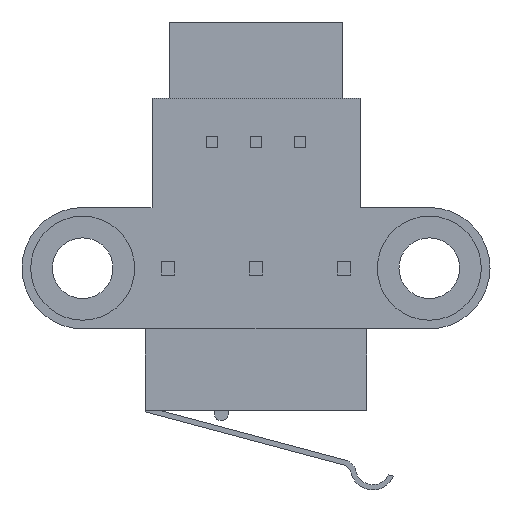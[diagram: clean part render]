
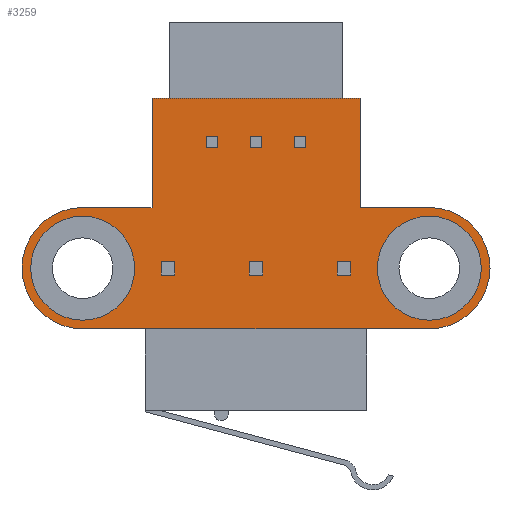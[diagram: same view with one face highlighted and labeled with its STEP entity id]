
A CAD part, front view. The second image highlights one B-rep face of the part: STEP entity #3259.
In plain terms, the highlighted planar face has unit normal (0, -1, 0).
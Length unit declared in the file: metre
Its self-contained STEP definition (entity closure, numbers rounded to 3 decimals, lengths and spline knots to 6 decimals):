
#25=LINE('',#5056,#420);
#29=LINE('',#5065,#424);
#32=LINE('',#5071,#427);
#35=LINE('',#5077,#430);
#61=LINE('',#5130,#456);
#65=LINE('',#5139,#460);
#68=LINE('',#5145,#463);
#71=LINE('',#5151,#466);
#97=LINE('',#5204,#492);
#101=LINE('',#5213,#496);
#104=LINE('',#5219,#499);
#107=LINE('',#5225,#502);
#133=LINE('',#5278,#528);
#137=LINE('',#5287,#532);
#140=LINE('',#5293,#535);
#143=LINE('',#5299,#538);
#169=LINE('',#5352,#564);
#173=LINE('',#5361,#568);
#176=LINE('',#5367,#571);
#179=LINE('',#5373,#574);
#205=LINE('',#5426,#600);
#209=LINE('',#5435,#604);
#212=LINE('',#5441,#607);
#215=LINE('',#5447,#610);
#331=LINE('',#5702,#726);
#338=LINE('',#5721,#733);
#341=LINE('',#5727,#736);
#344=LINE('',#5733,#739);
#348=LINE('',#5740,#743);
#351=LINE('',#5746,#746);
#420=VECTOR('',#4266,1.);
#424=VECTOR('',#4272,1.);
#427=VECTOR('',#4277,1.);
#430=VECTOR('',#4282,1.);
#456=VECTOR('',#4330,1.);
#460=VECTOR('',#4336,1.);
#463=VECTOR('',#4341,1.);
#466=VECTOR('',#4346,1.);
#492=VECTOR('',#4394,1.);
#496=VECTOR('',#4400,1.);
#499=VECTOR('',#4405,1.);
#502=VECTOR('',#4410,1.);
#528=VECTOR('',#4458,1.);
#532=VECTOR('',#4464,1.);
#535=VECTOR('',#4469,1.);
#538=VECTOR('',#4474,1.);
#564=VECTOR('',#4522,1.);
#568=VECTOR('',#4528,1.);
#571=VECTOR('',#4533,1.);
#574=VECTOR('',#4538,1.);
#600=VECTOR('',#4586,1.);
#604=VECTOR('',#4592,1.);
#607=VECTOR('',#4597,1.);
#610=VECTOR('',#4602,1.);
#726=VECTOR('',#4816,1.);
#733=VECTOR('',#4831,1.);
#736=VECTOR('',#4836,1.);
#739=VECTOR('',#4841,1.);
#743=VECTOR('',#4847,1.);
#746=VECTOR('',#4852,1.);
#928=PLANE('',#4156);
#1563=ORIENTED_EDGE('',*,*,#1819,.F.);
#1564=ORIENTED_EDGE('',*,*,#1821,.F.);
#1565=ORIENTED_EDGE('',*,*,#2174,.F.);
#1566=ORIENTED_EDGE('',*,*,#2149,.F.);
#1567=ORIENTED_EDGE('',*,*,#2155,.F.);
#1568=ORIENTED_EDGE('',*,*,#2158,.F.);
#1569=ORIENTED_EDGE('',*,*,#2161,.F.);
#1570=ORIENTED_EDGE('',*,*,#2164,.F.);
#1571=ORIENTED_EDGE('',*,*,#2168,.F.);
#1572=ORIENTED_EDGE('',*,*,#2171,.F.);
#1573=ORIENTED_EDGE('',*,*,#2019,.T.);
#1574=ORIENTED_EDGE('',*,*,#2015,.T.);
#1575=ORIENTED_EDGE('',*,*,#2025,.T.);
#1576=ORIENTED_EDGE('',*,*,#2022,.T.);
#1577=ORIENTED_EDGE('',*,*,#1983,.T.);
#1578=ORIENTED_EDGE('',*,*,#1979,.T.);
#1579=ORIENTED_EDGE('',*,*,#1989,.T.);
#1580=ORIENTED_EDGE('',*,*,#1986,.T.);
#1581=ORIENTED_EDGE('',*,*,#1947,.T.);
#1582=ORIENTED_EDGE('',*,*,#1943,.T.);
#1583=ORIENTED_EDGE('',*,*,#1953,.T.);
#1584=ORIENTED_EDGE('',*,*,#1950,.T.);
#1585=ORIENTED_EDGE('',*,*,#1911,.T.);
#1586=ORIENTED_EDGE('',*,*,#1907,.T.);
#1587=ORIENTED_EDGE('',*,*,#1917,.T.);
#1588=ORIENTED_EDGE('',*,*,#1914,.T.);
#1589=ORIENTED_EDGE('',*,*,#1875,.T.);
#1590=ORIENTED_EDGE('',*,*,#1871,.T.);
#1591=ORIENTED_EDGE('',*,*,#1881,.T.);
#1592=ORIENTED_EDGE('',*,*,#1878,.T.);
#1593=ORIENTED_EDGE('',*,*,#1839,.T.);
#1594=ORIENTED_EDGE('',*,*,#1835,.T.);
#1595=ORIENTED_EDGE('',*,*,#1845,.T.);
#1596=ORIENTED_EDGE('',*,*,#1842,.T.);
#1819=EDGE_CURVE('',#2248,#2248,#2538,.F.);
#1821=EDGE_CURVE('',#2250,#2250,#2540,.F.);
#1835=EDGE_CURVE('',#2260,#2261,#25,.T.);
#1839=EDGE_CURVE('',#2264,#2260,#29,.T.);
#1842=EDGE_CURVE('',#2266,#2264,#32,.T.);
#1845=EDGE_CURVE('',#2261,#2266,#35,.T.);
#1871=EDGE_CURVE('',#2284,#2285,#61,.T.);
#1875=EDGE_CURVE('',#2288,#2284,#65,.T.);
#1878=EDGE_CURVE('',#2290,#2288,#68,.T.);
#1881=EDGE_CURVE('',#2285,#2290,#71,.T.);
#1907=EDGE_CURVE('',#2308,#2309,#97,.T.);
#1911=EDGE_CURVE('',#2312,#2308,#101,.T.);
#1914=EDGE_CURVE('',#2314,#2312,#104,.T.);
#1917=EDGE_CURVE('',#2309,#2314,#107,.T.);
#1943=EDGE_CURVE('',#2332,#2333,#133,.T.);
#1947=EDGE_CURVE('',#2336,#2332,#137,.T.);
#1950=EDGE_CURVE('',#2338,#2336,#140,.T.);
#1953=EDGE_CURVE('',#2333,#2338,#143,.T.);
#1979=EDGE_CURVE('',#2356,#2357,#169,.T.);
#1983=EDGE_CURVE('',#2360,#2356,#173,.T.);
#1986=EDGE_CURVE('',#2362,#2360,#176,.T.);
#1989=EDGE_CURVE('',#2357,#2362,#179,.T.);
#2015=EDGE_CURVE('',#2380,#2381,#205,.T.);
#2019=EDGE_CURVE('',#2384,#2380,#209,.T.);
#2022=EDGE_CURVE('',#2386,#2384,#212,.T.);
#2025=EDGE_CURVE('',#2381,#2386,#215,.T.);
#2149=EDGE_CURVE('',#2478,#2479,#331,.T.);
#2155=EDGE_CURVE('',#2484,#2478,#2550,.T.);
#2158=EDGE_CURVE('',#2486,#2484,#338,.T.);
#2161=EDGE_CURVE('',#2488,#2486,#341,.T.);
#2164=EDGE_CURVE('',#2490,#2488,#344,.T.);
#2168=EDGE_CURVE('',#2492,#2490,#348,.T.);
#2171=EDGE_CURVE('',#2494,#2492,#351,.T.);
#2174=EDGE_CURVE('',#2479,#2494,#2552,.T.);
#2248=VERTEX_POINT('',#5020);
#2250=VERTEX_POINT('',#5026);
#2260=VERTEX_POINT('',#5057);
#2261=VERTEX_POINT('',#5058);
#2264=VERTEX_POINT('',#5066);
#2266=VERTEX_POINT('',#5072);
#2284=VERTEX_POINT('',#5131);
#2285=VERTEX_POINT('',#5132);
#2288=VERTEX_POINT('',#5140);
#2290=VERTEX_POINT('',#5146);
#2308=VERTEX_POINT('',#5205);
#2309=VERTEX_POINT('',#5206);
#2312=VERTEX_POINT('',#5214);
#2314=VERTEX_POINT('',#5220);
#2332=VERTEX_POINT('',#5279);
#2333=VERTEX_POINT('',#5280);
#2336=VERTEX_POINT('',#5288);
#2338=VERTEX_POINT('',#5294);
#2356=VERTEX_POINT('',#5353);
#2357=VERTEX_POINT('',#5354);
#2360=VERTEX_POINT('',#5362);
#2362=VERTEX_POINT('',#5368);
#2380=VERTEX_POINT('',#5427);
#2381=VERTEX_POINT('',#5428);
#2384=VERTEX_POINT('',#5436);
#2386=VERTEX_POINT('',#5442);
#2478=VERTEX_POINT('',#5703);
#2479=VERTEX_POINT('',#5704);
#2484=VERTEX_POINT('',#5716);
#2486=VERTEX_POINT('',#5722);
#2488=VERTEX_POINT('',#5728);
#2490=VERTEX_POINT('',#5734);
#2492=VERTEX_POINT('',#5741);
#2494=VERTEX_POINT('',#5747);
#2538=CIRCLE('',#4010,0.003);
#2540=CIRCLE('',#4014,0.003);
#2550=CIRCLE('',#4146,0.0035);
#2552=CIRCLE('',#4154,0.0035);
#2729=EDGE_LOOP('',(#1563));
#2730=EDGE_LOOP('',(#1564));
#2731=EDGE_LOOP('',(#1565,#1566,#1567,#1568,#1569,#1570,#1571,#1572));
#2732=EDGE_LOOP('',(#1573,#1574,#1575,#1576));
#2733=EDGE_LOOP('',(#1577,#1578,#1579,#1580));
#2734=EDGE_LOOP('',(#1581,#1582,#1583,#1584));
#2735=EDGE_LOOP('',(#1585,#1586,#1587,#1588));
#2736=EDGE_LOOP('',(#1589,#1590,#1591,#1592));
#2737=EDGE_LOOP('',(#1593,#1594,#1595,#1596));
#2942=FACE_BOUND('',#2729,.T.);
#2943=FACE_BOUND('',#2730,.T.);
#2944=FACE_BOUND('',#2731,.T.);
#2945=FACE_BOUND('',#2732,.T.);
#2946=FACE_BOUND('',#2733,.T.);
#2947=FACE_BOUND('',#2734,.T.);
#2948=FACE_BOUND('',#2735,.T.);
#2949=FACE_BOUND('',#2736,.T.);
#2950=FACE_BOUND('',#2737,.T.);
#3259=ADVANCED_FACE('',(#2942,#2943,#2944,#2945,#2946,#2947,#2948,#2949,
#2950),#928,.F.);
#4010=AXIS2_PLACEMENT_3D('',#5019,#4228,#4229);
#4014=AXIS2_PLACEMENT_3D('',#5025,#4236,#4237);
#4146=AXIS2_PLACEMENT_3D('',#5715,#4824,#4825);
#4154=AXIS2_PLACEMENT_3D('',#5752,#4857,#4858);
#4156=AXIS2_PLACEMENT_3D('',#5754,#4861,#4862);
#4228=DIRECTION('',(0.,1.,0.));
#4229=DIRECTION('',(0.,0.,1.));
#4236=DIRECTION('',(0.,1.,0.));
#4237=DIRECTION('',(0.,0.,1.));
#4266=DIRECTION('',(0.,0.,-1.));
#4272=DIRECTION('',(1.,0.,0.));
#4277=DIRECTION('',(0.,0.,1.));
#4282=DIRECTION('',(-1.,0.,0.));
#4330=DIRECTION('',(0.,0.,-1.));
#4336=DIRECTION('',(1.,0.,0.));
#4341=DIRECTION('',(0.,0.,1.));
#4346=DIRECTION('',(-1.,0.,0.));
#4394=DIRECTION('',(0.,0.,-1.));
#4400=DIRECTION('',(1.,0.,0.));
#4405=DIRECTION('',(0.,0.,1.));
#4410=DIRECTION('',(-1.,0.,0.));
#4458=DIRECTION('',(0.,0.,-1.));
#4464=DIRECTION('',(1.,0.,0.));
#4469=DIRECTION('',(0.,0.,1.));
#4474=DIRECTION('',(-1.,0.,0.));
#4522=DIRECTION('',(0.,0.,-1.));
#4528=DIRECTION('',(1.,0.,0.));
#4533=DIRECTION('',(0.,0.,1.));
#4538=DIRECTION('',(-1.,0.,0.));
#4586=DIRECTION('',(0.,0.,-1.));
#4592=DIRECTION('',(1.,0.,0.));
#4597=DIRECTION('',(0.,0.,1.));
#4602=DIRECTION('',(-1.,0.,0.));
#4816=DIRECTION('',(-1.,0.,0.));
#4824=DIRECTION('',(0.,1.,0.));
#4825=DIRECTION('',(0.,0.,1.));
#4831=DIRECTION('',(1.,0.,0.));
#4836=DIRECTION('',(0.,0.,-1.));
#4841=DIRECTION('',(1.,0.,0.));
#4847=DIRECTION('',(0.,0.,1.));
#4852=DIRECTION('',(1.,0.,0.));
#4857=DIRECTION('',(0.,1.,0.));
#4858=DIRECTION('',(0.,0.,1.));
#4861=DIRECTION('',(0.,1.,0.));
#4862=DIRECTION('',(0.,0.,1.));
#5019=CARTESIAN_POINT('',(-0.01,0.,0.));
#5020=CARTESIAN_POINT('',(-0.01,0.,0.003));
#5025=CARTESIAN_POINT('',(0.01,0.,0.));
#5026=CARTESIAN_POINT('',(0.01,0.,0.003));
#5056=CARTESIAN_POINT('',(0.00548,0.,0.));
#5057=CARTESIAN_POINT('',(0.00548,0.,0.0004));
#5058=CARTESIAN_POINT('',(0.00548,0.,-0.0004));
#5065=CARTESIAN_POINT('',(-0.01,0.,0.0004));
#5066=CARTESIAN_POINT('',(0.00468,0.,0.0004));
#5071=CARTESIAN_POINT('',(0.00468,0.,0.));
#5072=CARTESIAN_POINT('',(0.00468,0.,-0.0004));
#5077=CARTESIAN_POINT('',(-0.01,0.,-0.0004));
#5130=CARTESIAN_POINT('',(0.0004,0.,0.));
#5131=CARTESIAN_POINT('',(0.0004,0.,0.0004));
#5132=CARTESIAN_POINT('',(0.0004,0.,-0.0004));
#5139=CARTESIAN_POINT('',(-0.01,0.,0.0004));
#5140=CARTESIAN_POINT('',(-0.0004,0.,0.0004));
#5145=CARTESIAN_POINT('',(-0.0004,0.,0.));
#5146=CARTESIAN_POINT('',(-0.0004,0.,-0.0004));
#5151=CARTESIAN_POINT('',(-0.01,0.,-0.0004));
#5204=CARTESIAN_POINT('',(-0.00468,0.,0.));
#5205=CARTESIAN_POINT('',(-0.00468,0.,0.0004));
#5206=CARTESIAN_POINT('',(-0.00468,0.,-0.0004));
#5213=CARTESIAN_POINT('',(-0.01,0.,0.0004));
#5214=CARTESIAN_POINT('',(-0.00548,0.,0.0004));
#5219=CARTESIAN_POINT('',(-0.00548,0.,0.));
#5220=CARTESIAN_POINT('',(-0.00548,0.,-0.0004));
#5225=CARTESIAN_POINT('',(-0.01,0.,-0.0004));
#5278=CARTESIAN_POINT('',(0.002865,0.,0.));
#5279=CARTESIAN_POINT('',(0.002865,0.,0.007585));
#5280=CARTESIAN_POINT('',(0.002865,0.,0.006935));
#5287=CARTESIAN_POINT('',(-0.01,0.,0.007585));
#5288=CARTESIAN_POINT('',(0.002215,0.,0.007585));
#5293=CARTESIAN_POINT('',(0.002215,0.,0.));
#5294=CARTESIAN_POINT('',(0.002215,0.,0.006935));
#5299=CARTESIAN_POINT('',(-0.01,0.,0.006935));
#5352=CARTESIAN_POINT('',(-0.002215,0.,0.));
#5353=CARTESIAN_POINT('',(-0.002215,0.,0.007585));
#5354=CARTESIAN_POINT('',(-0.002215,0.,0.006935));
#5361=CARTESIAN_POINT('',(-0.01,0.,0.007585));
#5362=CARTESIAN_POINT('',(-0.002865,0.,0.007585));
#5367=CARTESIAN_POINT('',(-0.002865,0.,0.));
#5368=CARTESIAN_POINT('',(-0.002865,0.,0.006935));
#5373=CARTESIAN_POINT('',(-0.01,0.,0.006935));
#5426=CARTESIAN_POINT('',(0.000325,0.,0.));
#5427=CARTESIAN_POINT('',(0.000325,0.,0.007585));
#5428=CARTESIAN_POINT('',(0.000325,0.,0.006935));
#5435=CARTESIAN_POINT('',(-0.01,0.,0.007585));
#5436=CARTESIAN_POINT('',(-0.000325,0.,0.007585));
#5441=CARTESIAN_POINT('',(-0.000325,0.,0.));
#5442=CARTESIAN_POINT('',(-0.000325,0.,0.006935));
#5447=CARTESIAN_POINT('',(-0.01,0.,0.006935));
#5702=CARTESIAN_POINT('',(-0.01,0.,-0.0035));
#5703=CARTESIAN_POINT('',(0.01,0.,-0.0035));
#5704=CARTESIAN_POINT('',(-0.01,0.,-0.0035));
#5715=CARTESIAN_POINT('',(0.01,0.,0.));
#5716=CARTESIAN_POINT('',(0.01,0.,0.0035));
#5721=CARTESIAN_POINT('',(0.006,0.,0.0035));
#5722=CARTESIAN_POINT('',(0.006,0.,0.0035));
#5727=CARTESIAN_POINT('',(0.006,0.,0.0098));
#5728=CARTESIAN_POINT('',(0.006,0.,0.0098));
#5733=CARTESIAN_POINT('',(-0.006,0.,0.0098));
#5734=CARTESIAN_POINT('',(-0.006,0.,0.0098));
#5740=CARTESIAN_POINT('',(-0.006,0.,0.0035));
#5741=CARTESIAN_POINT('',(-0.006,0.,0.0035));
#5746=CARTESIAN_POINT('',(-0.01,0.,0.0035));
#5747=CARTESIAN_POINT('',(-0.01,0.,0.0035));
#5752=CARTESIAN_POINT('',(-0.01,0.,0.));
#5754=CARTESIAN_POINT('',(-0.01,0.,0.));
